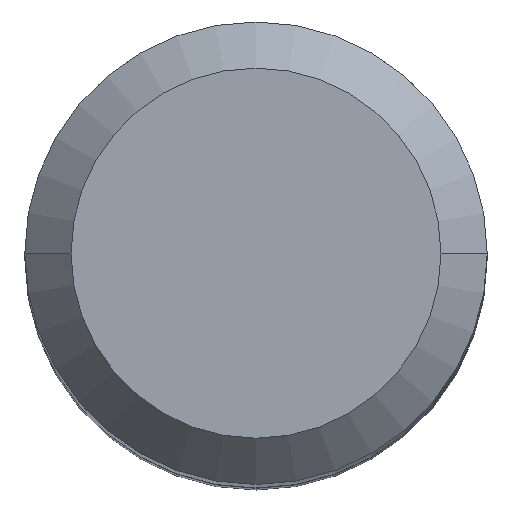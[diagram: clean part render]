
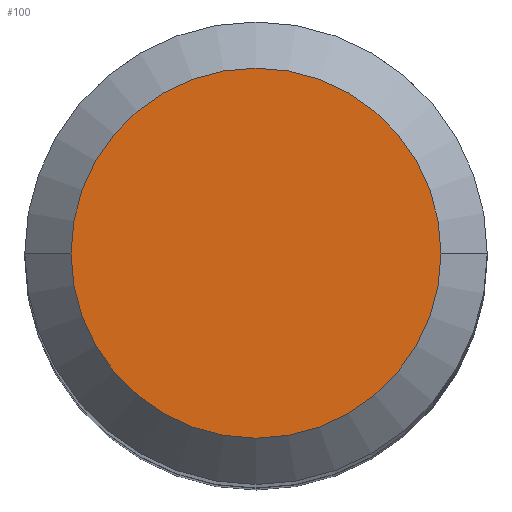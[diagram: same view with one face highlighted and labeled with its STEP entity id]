
A CAD part, top view. The second image highlights one B-rep face of the part: STEP entity #100.
In plain terms, the highlighted planar face has unit normal (0, 0, 1).
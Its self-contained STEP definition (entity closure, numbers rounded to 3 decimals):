
#2 = CARTESIAN_POINT ( 'NONE',  ( 0., 0., 0. ) ) ;
#3 = CIRCLE ( 'NONE', #404, 4.8 ) ;
#77 = AXIS2_PLACEMENT_3D ( 'NONE', #511, #454, #506 ) ;
#90 = DIRECTION ( 'NONE',  ( 1., 0., 0. ) ) ;
#91 = DIRECTION ( 'NONE',  ( 0., 0., -1. ) ) ;
#100 = ADVANCED_FACE ( 'NONE', ( #439 ), #642, .T. ) ;
#109 = VERTEX_POINT ( 'NONE', #145 ) ;
#145 = CARTESIAN_POINT ( 'NONE',  ( -4.8, 0., 0. ) ) ;
#152 = DIRECTION ( 'NONE',  ( -1., 0., 0. ) ) ;
#189 = CARTESIAN_POINT ( 'NONE',  ( 0., 4.8, 0. ) ) ;
#265 = EDGE_CURVE ( 'NONE', #109, #468, #536, .T. ) ;
#267 = ORIENTED_EDGE ( 'NONE', *, *, #265, .F. ) ;
#307 = EDGE_CURVE ( 'NONE', #468, #109, #3, .T. ) ;
#311 = EDGE_LOOP ( 'NONE', ( #267, #429 ) ) ;
#391 = DIRECTION ( 'NONE',  ( 0., 0., 1. ) ) ;
#404 = AXIS2_PLACEMENT_3D ( 'NONE', #2, #91, #152 ) ;
#429 = ORIENTED_EDGE ( 'NONE', *, *, #307, .F. ) ;
#439 = FACE_OUTER_BOUND ( 'NONE', #311, .T. ) ;
#454 = DIRECTION ( 'NONE',  ( 0., 0., -1. ) ) ;
#468 = VERTEX_POINT ( 'NONE', #530 ) ;
#506 = DIRECTION ( 'NONE',  ( -1., 0., 0. ) ) ;
#511 = CARTESIAN_POINT ( 'NONE',  ( 0., 0., 0. ) ) ;
#530 = CARTESIAN_POINT ( 'NONE',  ( 4.8, 0., 0. ) ) ;
#536 = CIRCLE ( 'NONE', #77, 4.8 ) ;
#615 = AXIS2_PLACEMENT_3D ( 'NONE', #189, #391, #90 ) ;
#642 = PLANE ( 'NONE',  #615 ) ;
